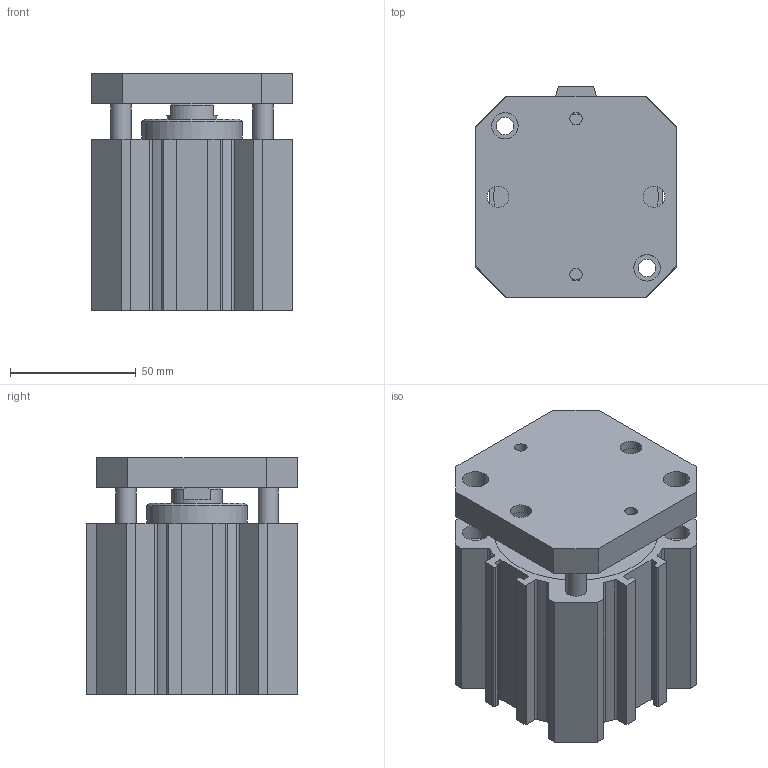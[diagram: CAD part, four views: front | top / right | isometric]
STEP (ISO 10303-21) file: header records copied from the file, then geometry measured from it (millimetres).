
FILE_DESCRIPTION(/* description */ ('TUBO PROFILATO COMPATTI Ø40'),/* implementation_level */ '2;1');
FILE_NAME(/* name */ 'I:\Area Tecnica\Disegni\VARIE-3D\Componenti\1500\Ø63\15##_63_####_#\1501_63_0030_AR.stp',/* time_stamp */ '2016-08-24T13:52:11+02:00',/* author */ ('Maniean1'),/* organization */ ('Pneumax S.p.A.'),/* preprocessor_version */ 'ST-DEVELOPER v15.2',/* originating_system */ 'Autodesk Inventor 2014',/* authorisation */ '');
FILE_SCHEMA (('AUTOMOTIVE_DESIGN { 1 0 10303 214 3 1 1 }'));
Length unit declared in the file: millimetre
Products named in the file (3): C_1501_63_0030_AR; S_1501_63_0030_AR; 1501_63_0030_AR
Bounding box: 80 x 84 x 94 mm (x, y, z)
Volume: 343787.6 mm3; surface area: 96135.3 mm2
Topology: 2 solids, 2 shells, 185 faces, 481 edges, 322 vertices
Faces by surface type: plane 94, cylinder 86, cone 5
Full cylindrical faces by diameter (mm): 4.917 x2, 7 x4, 8 x4, 8.5 x2, 8.566 x2, 10.5 x8, 13.5 x2, 20 x2, 40 x2, 63 x2, 65.5 x2
Entity records: 5739 total; most frequent: DIRECTION 994, CARTESIAN_POINT 950, ORIENTED_EDGE 876, EDGE_CURVE 438, AXIS2_PLACEMENT_3D 370, VERTEX_POINT 314, EDGE_LOOP 262, LINE 254
